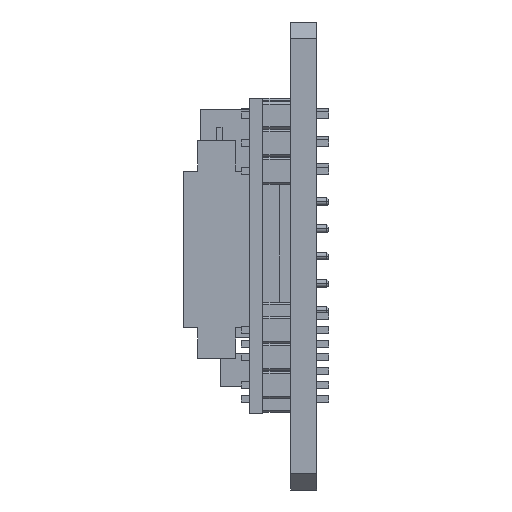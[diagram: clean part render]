
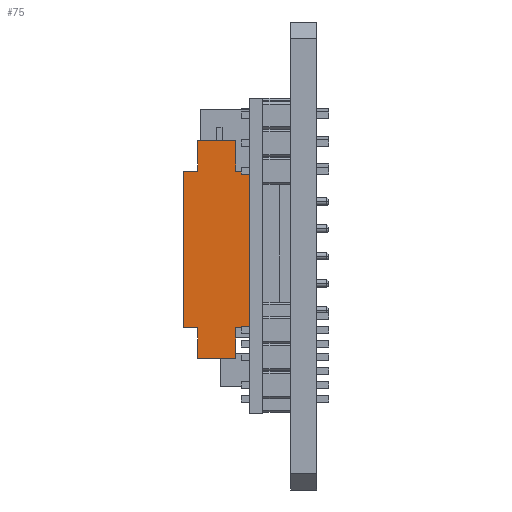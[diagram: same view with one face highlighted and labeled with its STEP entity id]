
A CAD part, left-side view. The second image highlights one B-rep face of the part: STEP entity #75.
In plain terms, the highlighted planar face has unit normal (-1, 0, 0).
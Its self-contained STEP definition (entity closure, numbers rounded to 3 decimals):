
#75 = ADVANCED_FACE ( 'NONE', ( #10630 ), #10631, .F. ) ;
#707 = ORIENTED_EDGE ( 'NONE', *, *, #17288, .F. ) ;
#708 = ORIENTED_EDGE ( 'NONE', *, *, #16317, .F. ) ;
#709 = ORIENTED_EDGE ( 'NONE', *, *, #16329, .T. ) ;
#710 = ORIENTED_EDGE ( 'NONE', *, *, #16327, .F. ) ;
#711 = ORIENTED_EDGE ( 'NONE', *, *, #16312, .F. ) ;
#712 = ORIENTED_EDGE ( 'NONE', *, *, #16315, .F. ) ;
#713 = ORIENTED_EDGE ( 'NONE', *, *, #16311, .F. ) ;
#714 = ORIENTED_EDGE ( 'NONE', *, *, #7257, .F. ) ;
#715 = ORIENTED_EDGE ( 'NONE', *, *, #16313, .F. ) ;
#716 = ORIENTED_EDGE ( 'NONE', *, *, #16310, .F. ) ;
#717 = ORIENTED_EDGE ( 'NONE', *, *, #16318, .F. ) ;
#718 = ORIENTED_EDGE ( 'NONE', *, *, #11791, .T. ) ;
#1105 = VERTEX_POINT ( 'NONE', #11452 ) ;
#2101 = CARTESIAN_POINT ( 'NONE',  ( -22.75, 6.14, 7.8 ) ) ;
#2394 = LINE ( 'NONE', #2423, #13749 ) ;
#2397 = LINE ( 'NONE', #2426, #13741 ) ;
#2420 = LINE ( 'NONE', #2429, #13740 ) ;
#2423 = CARTESIAN_POINT ( 'NONE',  ( -22.75, 7.44, 10.6 ) ) ;
#2425 = DIRECTION ( 'NONE',  ( 0., 0., -1. ) ) ;
#2426 = CARTESIAN_POINT ( 'NONE',  ( -22.75, 12.24, 7.8 ) ) ;
#2428 = DIRECTION ( 'NONE',  ( 0., -1., 0. ) ) ;
#2429 = CARTESIAN_POINT ( 'NONE',  ( -22.75, 12.24, -6.6 ) ) ;
#2430 = DIRECTION ( 'NONE',  ( 0., 1., 0. ) ) ;
#2431 = LINE ( 'NONE', #2433, #13738 ) ;
#2433 = CARTESIAN_POINT ( 'NONE',  ( -22.75, 12.24, 10.6 ) ) ;
#2434 = DIRECTION ( 'NONE',  ( 0., -1., 0. ) ) ;
#2437 = LINE ( 'NONE', #2439, #13736 ) ;
#2439 = CARTESIAN_POINT ( 'NONE',  ( -22.75, 12.24, 10.6 ) ) ;
#2440 = DIRECTION ( 'NONE',  ( 0., 0., 1. ) ) ;
#2443 = LINE ( 'NONE', #2444, #13734 ) ;
#2444 = CARTESIAN_POINT ( 'NONE',  ( -22.75, 7.44, -9.4 ) ) ;
#2445 = DIRECTION ( 'NONE',  ( 0., 0., -1. ) ) ;
#2446 = LINE ( 'NONE', #2447, #13733 ) ;
#2447 = CARTESIAN_POINT ( 'NONE',  ( -22.75, 6.14, 7.8 ) ) ;
#2448 = DIRECTION ( 'NONE',  ( 0., -1., 0. ) ) ;
#2473 = LINE ( 'NONE', #2474, #13724 ) ;
#2474 = CARTESIAN_POINT ( 'NONE',  ( -22.75, 10.94, -9.4 ) ) ;
#2475 = DIRECTION ( 'NONE',  ( 0., 0., 1. ) ) ;
#2478 = LINE ( 'NONE', #2479, #13722 ) ;
#2479 = CARTESIAN_POINT ( 'NONE',  ( -22.75, 12.24, -9.4 ) ) ;
#2480 = DIRECTION ( 'NONE',  ( 0., -1., 0. ) ) ;
#3256 = AXIS2_PLACEMENT_3D ( 'NONE', #10622, #10633, #10634 ) ;
#4068 = EDGE_LOOP ( 'NONE', ( #718, #717, #716, #715, #714, #713, #712, #711, #710, #709, #708, #707 ) ) ;
#6565 = VECTOR ( 'NONE', #16483, 1000. ) ;
#7257 = EDGE_CURVE ( 'NONE', #17472, #17506, #16464, .T. ) ;
#7519 = LINE ( 'NONE', #7539, #14410 ) ;
#7539 = CARTESIAN_POINT ( 'NONE',  ( -22.75, 6.14, -6.6 ) ) ;
#7540 = DIRECTION ( 'NONE',  ( 0., 1., 0. ) ) ;
#7777 = CARTESIAN_POINT ( 'NONE',  ( -22.75, 10.94, -9.4 ) ) ;
#7786 = CARTESIAN_POINT ( 'NONE',  ( -22.75, 10.94, -6.6 ) ) ;
#7787 = CARTESIAN_POINT ( 'NONE',  ( -22.75, 12.24, -6.6 ) ) ;
#7796 = CARTESIAN_POINT ( 'NONE',  ( -22.75, 10.94, 7.8 ) ) ;
#7797 = CARTESIAN_POINT ( 'NONE',  ( -22.75, 7.44, 7.8 ) ) ;
#7830 = CARTESIAN_POINT ( 'NONE',  ( -22.75, 10.94, 10.6 ) ) ;
#7859 = CARTESIAN_POINT ( 'NONE',  ( -22.75, 12.24, 7.8 ) ) ;
#7882 = CARTESIAN_POINT ( 'NONE',  ( -22.75, 7.44, 10.6 ) ) ;
#10622 = CARTESIAN_POINT ( 'NONE',  ( -22.75, 12.24, 10.6 ) ) ;
#10630 = FACE_OUTER_BOUND ( 'NONE', #4068, .T. ) ;
#10631 = PLANE ( 'NONE',  #3256 ) ;
#10633 = DIRECTION ( 'NONE',  ( 1., 0., 0. ) ) ;
#10634 = DIRECTION ( 'NONE',  ( 0., 0., -1. ) ) ;
#11452 = CARTESIAN_POINT ( 'NONE',  ( -22.75, 6.14, -6.6 ) ) ;
#11791 = EDGE_CURVE ( 'NONE', #1105, #14744, #15850, .T. ) ;
#13130 = CARTESIAN_POINT ( 'NONE',  ( -22.75, 7.44, -6.6 ) ) ;
#13141 = CARTESIAN_POINT ( 'NONE',  ( -22.75, 7.44, -9.4 ) ) ;
#13364 = VECTOR ( 'NONE', #15858, 1000. ) ;
#13509 = VERTEX_POINT ( 'NONE', #13130 ) ;
#13520 = VERTEX_POINT ( 'NONE', #13141 ) ;
#13722 = VECTOR ( 'NONE', #2480, 1000. ) ;
#13724 = VECTOR ( 'NONE', #2475, 1000. ) ;
#13733 = VECTOR ( 'NONE', #2448, 1000. ) ;
#13734 = VECTOR ( 'NONE', #2445, 1000. ) ;
#13736 = VECTOR ( 'NONE', #2440, 1000. ) ;
#13738 = VECTOR ( 'NONE', #2434, 1000. ) ;
#13740 = VECTOR ( 'NONE', #2430, 1000. ) ;
#13741 = VECTOR ( 'NONE', #2428, 1000. ) ;
#13749 = VECTOR ( 'NONE', #2425, 1000. ) ;
#14410 = VECTOR ( 'NONE', #7540, 1000. ) ;
#14744 = VERTEX_POINT ( 'NONE', #2101 ) ;
#15850 = LINE ( 'NONE', #15857, #13364 ) ;
#15857 = CARTESIAN_POINT ( 'NONE',  ( -22.75, 6.14, 10.6 ) ) ;
#15858 = DIRECTION ( 'NONE',  ( 0., 0., 1. ) ) ;
#16310 = EDGE_CURVE ( 'NONE', #17558, #17473, #2394, .T. ) ;
#16311 = EDGE_CURVE ( 'NONE', #17535, #17472, #2397, .T. ) ;
#16312 = EDGE_CURVE ( 'NONE', #17462, #17463, #2420, .T. ) ;
#16313 = EDGE_CURVE ( 'NONE', #17506, #17558, #2431, .T. ) ;
#16315 = EDGE_CURVE ( 'NONE', #17463, #17535, #2437, .T. ) ;
#16317 = EDGE_CURVE ( 'NONE', #13509, #13520, #2443, .T. ) ;
#16318 = EDGE_CURVE ( 'NONE', #17473, #14744, #2446, .T. ) ;
#16327 = EDGE_CURVE ( 'NONE', #17453, #17462, #2473, .T. ) ;
#16329 = EDGE_CURVE ( 'NONE', #17453, #13520, #2478, .T. ) ;
#16464 = LINE ( 'NONE', #16482, #6565 ) ;
#16482 = CARTESIAN_POINT ( 'NONE',  ( -22.75, 10.94, 10.6 ) ) ;
#16483 = DIRECTION ( 'NONE',  ( 0., 0., 1. ) ) ;
#17288 = EDGE_CURVE ( 'NONE', #1105, #13509, #7519, .T. ) ;
#17453 = VERTEX_POINT ( 'NONE', #7777 ) ;
#17462 = VERTEX_POINT ( 'NONE', #7786 ) ;
#17463 = VERTEX_POINT ( 'NONE', #7787 ) ;
#17472 = VERTEX_POINT ( 'NONE', #7796 ) ;
#17473 = VERTEX_POINT ( 'NONE', #7797 ) ;
#17506 = VERTEX_POINT ( 'NONE', #7830 ) ;
#17535 = VERTEX_POINT ( 'NONE', #7859 ) ;
#17558 = VERTEX_POINT ( 'NONE', #7882 ) ;
